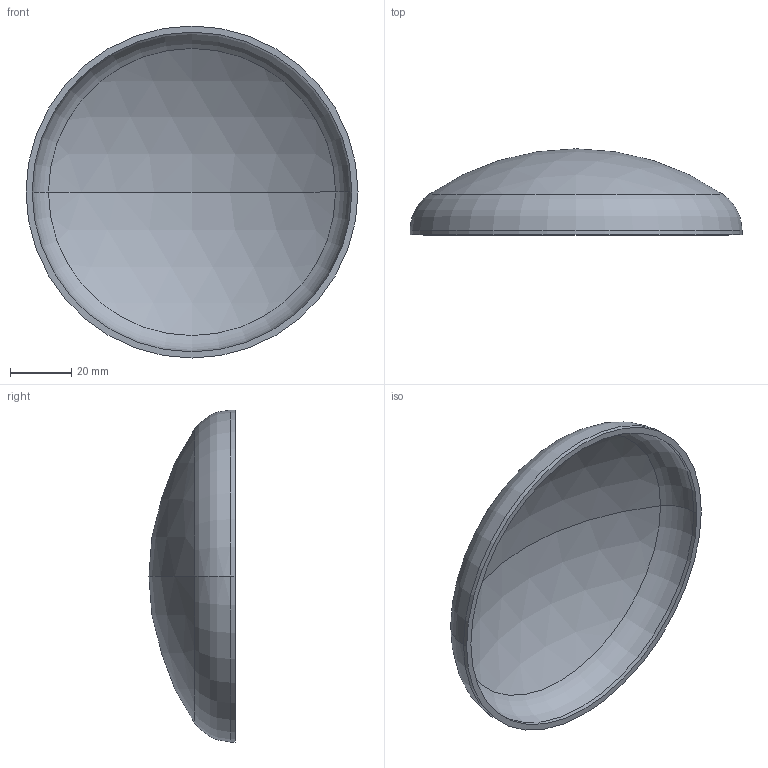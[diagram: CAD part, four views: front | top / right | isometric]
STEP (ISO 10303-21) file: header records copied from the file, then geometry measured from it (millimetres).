
FILE_DESCRIPTION (( 'STEP AP203' ), '1' );
FILE_NAME ('3D_R365_108x2_173373310.STEP', '2024-07-16T07:08:49', ( '' ), ( '' ), 'SwSTEP 2.0', 'SolidWorks 2024', '' );
FILE_SCHEMA (( 'CONFIG_CONTROL_DESIGN' ));
Length unit declared in the file: millimetre
Products named in the file (1): 3D_R365_108x2_173373310
Bounding box: 108 x 28 x 108 mm (x, y, z)
Volume: 24554.3 mm3; surface area: 25228.7 mm2
Topology: 1 solids, 1 shells, 13 faces, 24 edges, 14 vertices
Faces by surface type: sphere 4, torus 4, cylinder 4, plane 1
Entity records: 407 total; most frequent: DIRECTION 72, CARTESIAN_POINT 52, ORIENTED_EDGE 48, AXIS2_PLACEMENT_3D 34, EDGE_CURVE 24, CIRCLE 20, VERTEX_POINT 14, EDGE_LOOP 14
